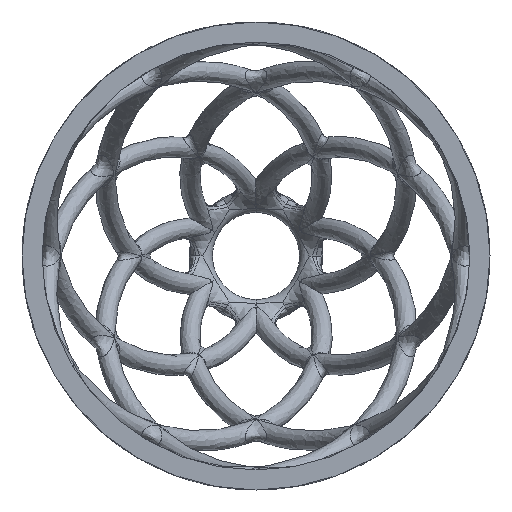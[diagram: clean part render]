
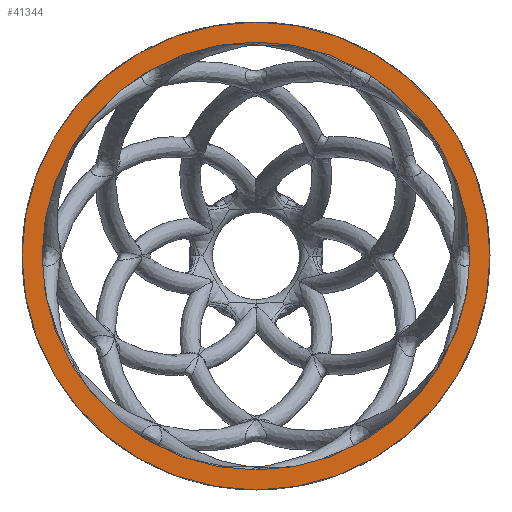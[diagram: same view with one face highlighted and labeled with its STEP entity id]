
A CAD part, left-side view. The second image highlights one B-rep face of the part: STEP entity #41344.
In plain terms, the highlighted planar face has unit normal (-1, 0, 0).
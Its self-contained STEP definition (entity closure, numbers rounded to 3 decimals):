
#14565=CARTESIAN_POINT('',(-4.25,0.,0.));
#14566=DIRECTION('',(1.,0.,0.));
#14567=DIRECTION('',(0.,0.,1.));
#14568=AXIS2_PLACEMENT_3D('',#14565,#14566,#14567);
#14570=CARTESIAN_POINT('',(-4.25,0.,0.));
#14571=DIRECTION('',(1.,0.,0.));
#14572=DIRECTION('',(0.,0.,-1.));
#14573=AXIS2_PLACEMENT_3D('',#14570,#14571,#14572);
#14575=CARTESIAN_POINT('',(-4.25,0.,0.));
#14576=DIRECTION('',(-1.,0.,0.));
#14577=DIRECTION('',(0.,0.,1.));
#14578=AXIS2_PLACEMENT_3D('',#14575,#14576,#14577);
#14580=CARTESIAN_POINT('',(-4.25,0.,0.));
#14581=DIRECTION('',(-1.,0.,0.));
#14582=DIRECTION('',(0.,0.,-1.));
#14583=AXIS2_PLACEMENT_3D('',#14580,#14581,#14582);
#18635=CARTESIAN_POINT('',(-4.25,0.,35.));
#18636=CARTESIAN_POINT('',(-4.25,0.,-35.));
#18637=VERTEX_POINT('',#18635);
#18638=VERTEX_POINT('',#18636);
#18639=CARTESIAN_POINT('',(-4.25,0.,32.));
#18640=CARTESIAN_POINT('',(-4.25,0.,-32.));
#18641=VERTEX_POINT('',#18639);
#18642=VERTEX_POINT('',#18640);
#41331=CARTESIAN_POINT('',(-4.25,0.,0.));
#41332=DIRECTION('',(1.,0.,0.));
#41333=DIRECTION('',(0.,0.,1.));
#41334=AXIS2_PLACEMENT_3D('',#41331,#41332,#41333);
#41335=PLANE('',#41334);
#41336=ORIENTED_EDGE('',*,*,#40355,.T.);
#41337=ORIENTED_EDGE('',*,*,#19986,.T.);
#41338=EDGE_LOOP('',(#41336,#41337));
#41339=FACE_OUTER_BOUND('',#41338,.F.);
#41340=ORIENTED_EDGE('',*,*,#20159,.T.);
#41341=ORIENTED_EDGE('',*,*,#40450,.T.);
#41342=EDGE_LOOP('',(#41340,#41341));
#41343=FACE_BOUND('',#41342,.F.);
#41344=ADVANCED_FACE('',(#41339,#41343),#41335,.F.);
#14569=CIRCLE('',#14568,35.);
#14574=CIRCLE('',#14573,35.);
#14579=CIRCLE('',#14578,32.);
#14584=CIRCLE('',#14583,32.);
#19986=EDGE_CURVE('',#18638,#18637,#14574,.T.);
#20159=EDGE_CURVE('',#18641,#18642,#14579,.T.);
#40355=EDGE_CURVE('',#18637,#18638,#14569,.T.);
#40450=EDGE_CURVE('',#18642,#18641,#14584,.T.);
